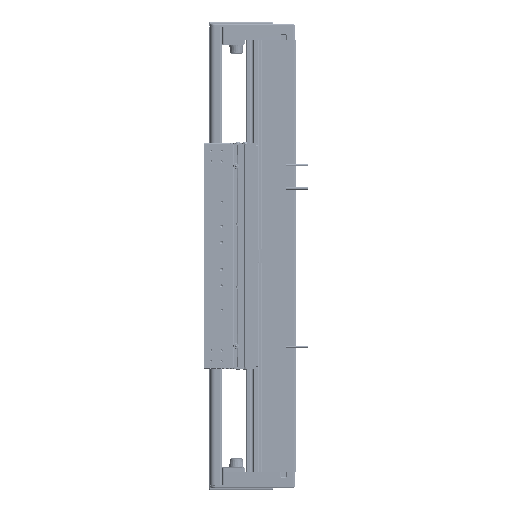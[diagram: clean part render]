
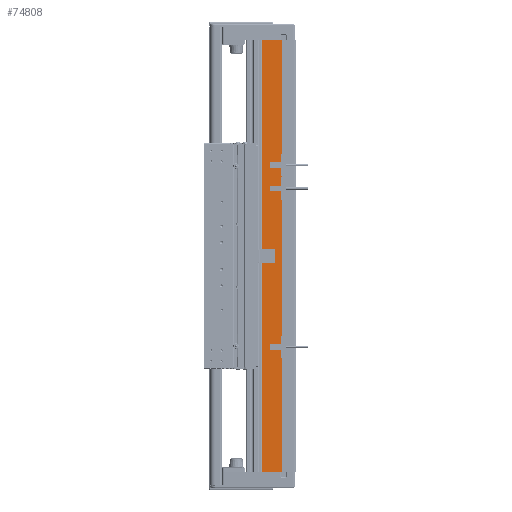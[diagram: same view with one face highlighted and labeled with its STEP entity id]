
A CAD part, left-side view. The second image highlights one B-rep face of the part: STEP entity #74808.
In plain terms, the highlighted planar face has unit normal (-1, 0, 0).
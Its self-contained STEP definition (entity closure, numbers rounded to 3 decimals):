
#881 = CARTESIAN_POINT ( 'NONE',  ( -97.5, 36.95, -240. ) ) ;
#7569 = EDGE_CURVE ( 'NONE', #118231, #44238, #29309, .T. ) ;
#11573 = LINE ( 'NONE', #92025, #37217 ) ;
#13845 = EDGE_CURVE ( 'NONE', #32637, #117645, #21804, .T. ) ;
#14298 = AXIS2_PLACEMENT_3D ( 'NONE', #73395, #62909, #113335 ) ;
#21804 = LINE ( 'NONE', #881, #46016 ) ;
#25837 = VECTOR ( 'NONE', #30613, 1000. ) ;
#27997 = ORIENTED_EDGE ( 'NONE', *, *, #128740, .T. ) ;
#29309 = LINE ( 'NONE', #79670, #25837 ) ;
#29435 = CARTESIAN_POINT ( 'NONE',  ( -97.5, 36.95, -240. ) ) ;
#30613 = DIRECTION ( 'NONE',  ( 0., -1., 0. ) ) ;
#32637 = VERTEX_POINT ( 'NONE', #29435 ) ;
#37217 = VECTOR ( 'NONE', #89420, 1000. ) ;
#41719 = VECTOR ( 'NONE', #103154, 1000. ) ;
#43018 = CARTESIAN_POINT ( 'NONE',  ( -97.5, 14.45, 240. ) ) ;
#43903 = FACE_OUTER_BOUND ( 'NONE', #111707, .T. ) ;
#44238 = VERTEX_POINT ( 'NONE', #43018 ) ;
#46016 = VECTOR ( 'NONE', #81335, 1000. ) ;
#62384 = CARTESIAN_POINT ( 'NONE',  ( -97.5, 14.45, -240. ) ) ;
#62909 = DIRECTION ( 'NONE',  ( 1., 0., 0. ) ) ;
#73395 = CARTESIAN_POINT ( 'NONE',  ( -97.5, 36.95, 240. ) ) ;
#74447 = ORIENTED_EDGE ( 'NONE', *, *, #128665, .F. ) ;
#74808 = ADVANCED_FACE ( 'NONE', ( #43903 ), #124438, .F. ) ;
#79670 = CARTESIAN_POINT ( 'NONE',  ( -97.5, 36.95, 240. ) ) ;
#81335 = DIRECTION ( 'NONE',  ( 0., -1., 0. ) ) ;
#84247 = ORIENTED_EDGE ( 'NONE', *, *, #7569, .F. ) ;
#89420 = DIRECTION ( 'NONE',  ( 0., 0., -1. ) ) ;
#92025 = CARTESIAN_POINT ( 'NONE',  ( -97.5, 14.45, 240. ) ) ;
#103154 = DIRECTION ( 'NONE',  ( 0., 0., -1. ) ) ;
#104809 = CARTESIAN_POINT ( 'NONE',  ( -97.5, 36.95, 240. ) ) ;
#111707 = EDGE_LOOP ( 'NONE', ( #126471, #74447, #84247, #27997 ) ) ;
#113335 = DIRECTION ( 'NONE',  ( 0., 1., 0. ) ) ;
#113608 = LINE ( 'NONE', #122767, #41719 ) ;
#117645 = VERTEX_POINT ( 'NONE', #62384 ) ;
#118231 = VERTEX_POINT ( 'NONE', #104809 ) ;
#122767 = CARTESIAN_POINT ( 'NONE',  ( -97.5, 36.95, 240. ) ) ;
#124438 = PLANE ( 'NONE',  #14298 ) ;
#126471 = ORIENTED_EDGE ( 'NONE', *, *, #13845, .T. ) ;
#128665 = EDGE_CURVE ( 'NONE', #44238, #117645, #11573, .T. ) ;
#128740 = EDGE_CURVE ( 'NONE', #118231, #32637, #113608, .T. ) ;
